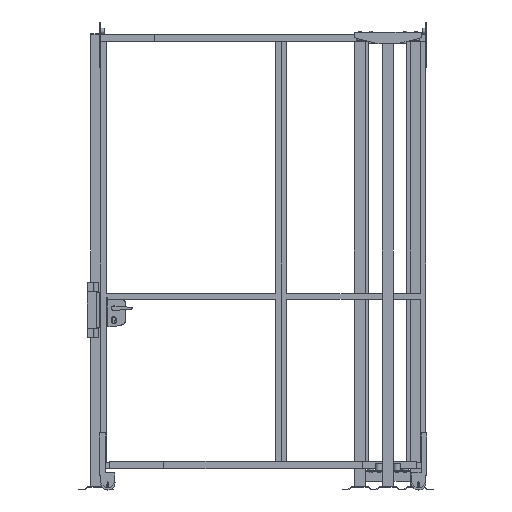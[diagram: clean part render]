
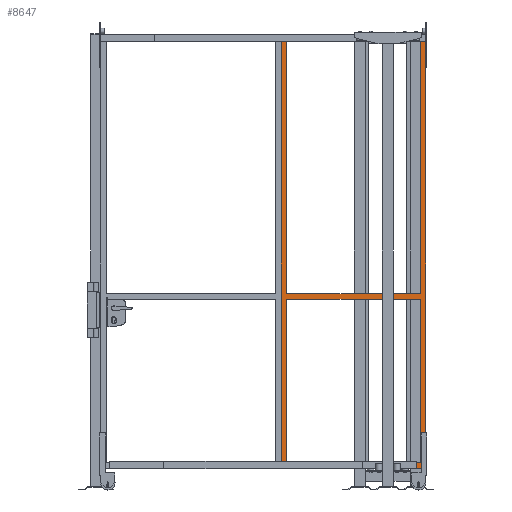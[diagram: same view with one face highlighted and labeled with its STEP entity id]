
A CAD part, front view. The second image highlights one B-rep face of the part: STEP entity #8647.
In plain terms, the highlighted planar face has unit normal (0, -1, 0).
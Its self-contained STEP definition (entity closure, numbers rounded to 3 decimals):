
#915=FACE_BOUND('',#1432,.T.);
#916=FACE_BOUND('',#1433,.T.);
#967=FACE_OUTER_BOUND('',#1431,.T.);
#1431=EDGE_LOOP('',(#6052,#6053,#6054,#6055));
#1432=EDGE_LOOP('',(#6056,#6057,#6058,#6059));
#1433=EDGE_LOOP('',(#6060,#6061,#6062,#6063));
#1942=LINE('',#12304,#3069);
#1948=LINE('',#12316,#3075);
#1949=LINE('',#12319,#3076);
#1952=LINE('',#12326,#3079);
#1953=LINE('',#12328,#3080);
#1954=LINE('',#12330,#3081);
#1955=LINE('',#12331,#3082);
#1956=LINE('',#12333,#3083);
#1957=LINE('',#12335,#3084);
#1958=LINE('',#12336,#3085);
#1959=LINE('',#12338,#3086);
#1960=LINE('',#12339,#3087);
#3069=VECTOR('',#9833,1.);
#3075=VECTOR('',#9841,1.);
#3076=VECTOR('',#9844,1.);
#3079=VECTOR('',#9849,1.);
#3080=VECTOR('',#9850,1.);
#3081=VECTOR('',#9851,1.);
#3082=VECTOR('',#9852,1.);
#3083=VECTOR('',#9853,1.);
#3084=VECTOR('',#9854,1.);
#3085=VECTOR('',#9855,1.);
#3086=VECTOR('',#9856,1.);
#3087=VECTOR('',#9857,1.);
#4195=VERTEX_POINT('',#12300);
#4197=VERTEX_POINT('',#12303);
#4200=VERTEX_POINT('',#12310);
#4202=VERTEX_POINT('',#12314);
#4203=VERTEX_POINT('',#12318);
#4205=VERTEX_POINT('',#12324);
#4206=VERTEX_POINT('',#12325);
#4207=VERTEX_POINT('',#12327);
#4208=VERTEX_POINT('',#12329);
#4209=VERTEX_POINT('',#12332);
#4210=VERTEX_POINT('',#12334);
#4211=VERTEX_POINT('',#12337);
#4938=EDGE_CURVE('',#4195,#4197,#1942,.T.);
#4944=EDGE_CURVE('',#4202,#4200,#1948,.T.);
#4945=EDGE_CURVE('',#4203,#4200,#1949,.T.);
#4948=EDGE_CURVE('',#4205,#4206,#1952,.T.);
#4949=EDGE_CURVE('',#4207,#4206,#1953,.T.);
#4950=EDGE_CURVE('',#4208,#4207,#1954,.T.);
#4951=EDGE_CURVE('',#4205,#4208,#1955,.T.);
#4952=EDGE_CURVE('',#4195,#4209,#1956,.T.);
#4953=EDGE_CURVE('',#4209,#4210,#1957,.T.);
#4954=EDGE_CURVE('',#4210,#4197,#1958,.T.);
#4955=EDGE_CURVE('',#4202,#4211,#1959,.T.);
#4956=EDGE_CURVE('',#4211,#4203,#1960,.T.);
#6052=ORIENTED_EDGE('',*,*,#4948,.T.);
#6053=ORIENTED_EDGE('',*,*,#4949,.F.);
#6054=ORIENTED_EDGE('',*,*,#4950,.F.);
#6055=ORIENTED_EDGE('',*,*,#4951,.F.);
#6056=ORIENTED_EDGE('',*,*,#4952,.T.);
#6057=ORIENTED_EDGE('',*,*,#4953,.T.);
#6058=ORIENTED_EDGE('',*,*,#4954,.T.);
#6059=ORIENTED_EDGE('',*,*,#4938,.F.);
#6060=ORIENTED_EDGE('',*,*,#4944,.F.);
#6061=ORIENTED_EDGE('',*,*,#4955,.T.);
#6062=ORIENTED_EDGE('',*,*,#4956,.T.);
#6063=ORIENTED_EDGE('',*,*,#4945,.T.);
#8249=PLANE('',#9159);
#8647=ADVANCED_FACE('',(#967,#915,#916),#8249,.F.);
#9159=AXIS2_PLACEMENT_3D('',#12323,#9847,#9848);
#9833=DIRECTION('',(1.,0.,0.));
#9841=DIRECTION('',(-1.,0.,0.));
#9844=DIRECTION('',(0.,0.,1.));
#9847=DIRECTION('center_axis',(0.,1.,0.));
#9848=DIRECTION('ref_axis',(0.,0.,1.));
#9849=DIRECTION('',(0.,0.,-1.));
#9850=DIRECTION('',(-1.,0.,0.));
#9851=DIRECTION('',(0.,0.,-1.));
#9852=DIRECTION('',(1.,0.,0.));
#9853=DIRECTION('',(0.,0.,1.));
#9854=DIRECTION('',(1.,0.,0.));
#9855=DIRECTION('',(0.,0.,-1.));
#9856=DIRECTION('',(0.,0.,-1.));
#9857=DIRECTION('',(-1.,0.,0.));
#12300=CARTESIAN_POINT('',(30.,0.,965.));
#12303=CARTESIAN_POINT('',(770.,0.,965.));
#12304=CARTESIAN_POINT('',(400.,0.,965.));
#12310=CARTESIAN_POINT('',(30.,0.,935.));
#12314=CARTESIAN_POINT('',(770.,0.,935.));
#12316=CARTESIAN_POINT('',(400.,0.,935.));
#12318=CARTESIAN_POINT('',(30.,0.,30.));
#12319=CARTESIAN_POINT('',(30.,0.,1200.));
#12323=CARTESIAN_POINT('Origin',(400.,0.,1200.));
#12324=CARTESIAN_POINT('',(0.,0.,2400.));
#12325=CARTESIAN_POINT('',(0.,0.,0.));
#12326=CARTESIAN_POINT('',(0.,0.,1200.));
#12327=CARTESIAN_POINT('',(800.,0.,0.));
#12328=CARTESIAN_POINT('',(400.,0.,0.));
#12329=CARTESIAN_POINT('',(800.,0.,2400.));
#12330=CARTESIAN_POINT('',(800.,0.,1200.));
#12331=CARTESIAN_POINT('',(400.,0.,2400.));
#12332=CARTESIAN_POINT('',(30.,0.,2370.));
#12333=CARTESIAN_POINT('',(30.,0.,1200.));
#12334=CARTESIAN_POINT('',(770.,0.,2370.));
#12335=CARTESIAN_POINT('',(400.,0.,2370.));
#12336=CARTESIAN_POINT('',(770.,0.,1200.));
#12337=CARTESIAN_POINT('',(770.,0.,30.));
#12338=CARTESIAN_POINT('',(770.,0.,1200.));
#12339=CARTESIAN_POINT('',(400.,0.,30.));
